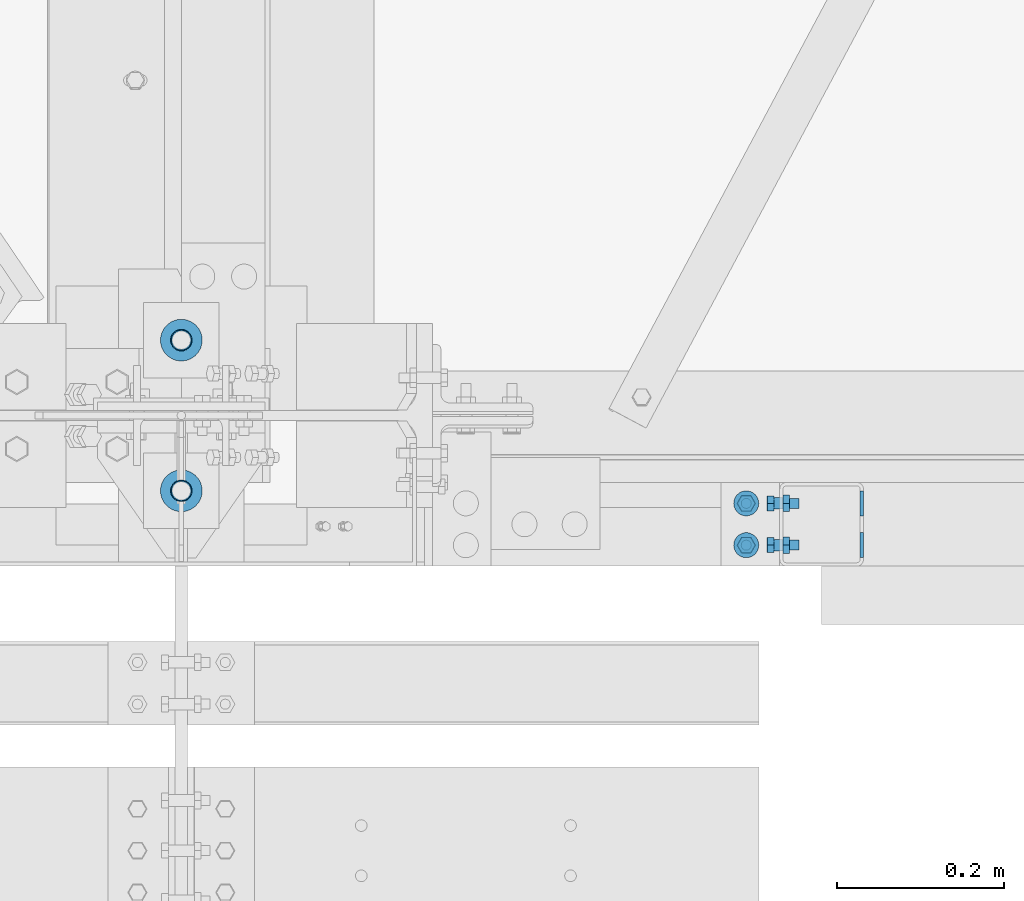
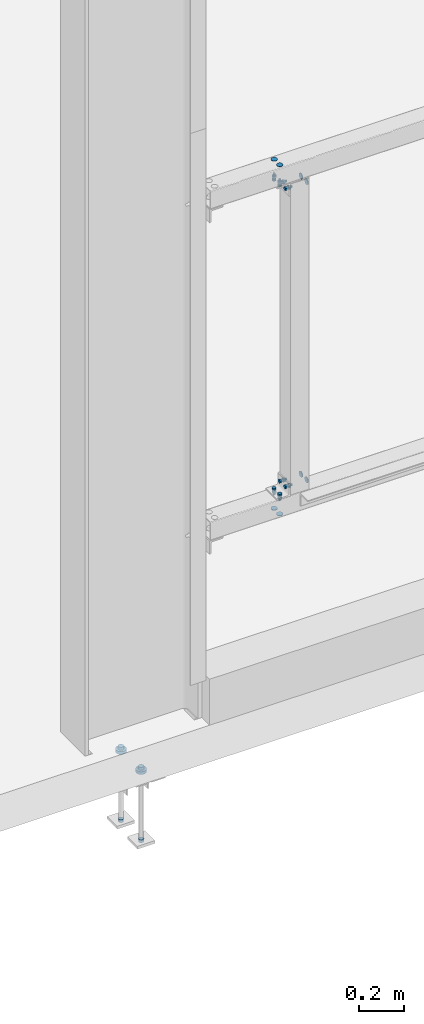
# One storey, part 272 of 362: 14 mechanical fasteners.
"""IFC2X3 building model written with IfcOpenShell, lengths in millimetres."""

from ifc_helpers import new_model, si_unit, frame, origin_with_axes, origin_2d_with_axis, place, context, subcontext, project, spatial, polyline, circle, outline, extrude, source, transform, mapped, material, type_object, element, save


model = new_model("IFC2X3")

# Units and contexts
model_context = context("Model", 3, precision=1e-05, world=origin_with_axes())
body_context = subcontext(model_context, "Body", "Model", "MODEL_VIEW")
ifc_project = project(units=[si_unit("LENGTHUNIT", "METRE", prefix="MILLI"), si_unit("AREAUNIT", "SQUARE_METRE"), si_unit("VOLUMEUNIT", "CUBIC_METRE"), si_unit("MASSUNIT", "GRAM", prefix="KILO"), si_unit("TIMEUNIT", "SECOND"), si_unit("PLANEANGLEUNIT", "RADIAN"), si_unit("SOLIDANGLEUNIT", "STERADIAN"), si_unit("THERMODYNAMICTEMPERATUREUNIT", "DEGREE_CELSIUS"), si_unit("LUMINOUSINTENSITYUNIT", "LUMEN")], contexts=[model_context])

# Site, building, storey
site_placement = place(None, origin_with_axes())
site = spatial("IfcSite", under=ifc_project, at=site_placement, Name="Undefined", CompositionType="ELEMENT")
building_placement = place(site_placement, origin_with_axes())
building = spatial("IfcBuilding", under=site, at=building_placement, Name="Undefined", CompositionType="ELEMENT")
storey_placement = place(building_placement, origin_with_axes())
storey = spatial("IfcBuildingStorey", under=building, at=storey_placement, Name="Undefined", CompositionType="ELEMENT", Elevation=0.0)

# Mechanical fasteners
ifc_material_1 = material(Name="6.8")
mechanical_fastener_type = type_object("IfcMechanicalFastenerType", Name="Bolt assembly")
shared_shape_1 = source(origin_with_axes(), body_context, "Body", "SweptSolid", [
    extrude(circle(Radius=15.0, at=origin_2d_with_axis()), frame((0.0, 0.0, 0.0), z_axis=(0.0, 1.0, 0.0), x_axis=(1.0, 0.0, 0.0)), (0.0, 0.0, 1.0), 4.1),
])
mechanical_fastener_1_placement = place(storey_placement, frame((29695.000000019, -130.000008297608, 1140.0), z_axis=(0.0, 1.0, 0.0), x_axis=(0.0, 0.0, -1.0)))
element("IfcMechanicalFastener", 1, at=mechanical_fastener_1_placement, inside=storey, type_object=mechanical_fastener_type, material=ifc_material_1, Name="Bolt assembly", NominalDiameter=30.0, NominalLength=4.0, context=body_context, shape_type="MappedRepresentation", body=[
    mapped(shared_shape_1, transform((0.0, 0.0, -25.0))),
    mapped(shared_shape_1, transform((0.0, 0.0, 25.0))),
])
mechanical_fastener_2_placement = place(storey_placement, frame((29695.000000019, -130.000008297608, 2760.0), z_axis=(0.0, -1.0, 0.0), x_axis=(0.0, 0.0, 1.0)))
element("IfcMechanicalFastener", 2, at=mechanical_fastener_2_placement, inside=storey, type_object=mechanical_fastener_type, material=ifc_material_1, Name="Bolt assembly", NominalDiameter=30.0, NominalLength=4.0, context=body_context, shape_type="MappedRepresentation", body=[
    mapped(shared_shape_1, transform((0.0, 0.0, 25.0))),
    mapped(shared_shape_1, transform((0.0, 0.0, -25.0))),
])
ifc_material_2 = material(Name="8.8-SB-ZINGUE")
shared_shape_2 = source(origin_with_axes(), body_context, "Body", "SweptSolid", [
    extrude(circle(Radius=7.0, at=origin_2d_with_axis()), frame((0.0, -0.101674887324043, 0.0), z_axis=(0.0, 1.0, 0.0), x_axis=(1.0, 0.0, 0.0)), (0.0, 0.0, 1.0), 4.1),
    extrude(circle(Radius=7.0, at=origin_2d_with_axis()), frame((0.0, -6.90167467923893, 0.0), z_axis=(0.0, 1.0, 0.0), x_axis=(1.0, 0.0, 0.0)), (0.0, 0.0, 1.0), 7.0),
    extrude(outline(polyline([(10.39230484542, 0.0), (5.19615242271, 9.00000000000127), (-5.19615242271, 9.00000000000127), (-10.39230484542, 0.0), (-5.19615242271, -9.00000000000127), (5.19615242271, -9.00000000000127), (10.39230484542, 0.0)])), frame((0.0, -14.9216746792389, 0.0), z_axis=(0.0, 1.0, 0.0), x_axis=(1.0, 0.0, 0.0)), (0.0, 0.0, 1.0), 7.92),
    extrude(circle(Radius=6.0, at=origin_2d_with_axis()), frame((0.0, -7.00167467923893, 0.0), z_axis=(0.0, 1.0, 0.0), x_axis=(1.0, 0.0, 0.0)), (0.0, 0.0, 1.0), 30.0),
    extrude(outline(polyline([(11.5008173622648, 0.0), (5.7504086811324, 9.96000000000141), (-5.7504086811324, 9.96000000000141), (-11.5008173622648, 0.0), (-5.7504086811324, -9.96000000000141), (5.7504086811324, -9.96000000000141), (11.5008173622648, 0.0)])), frame((0.0, 3.99832511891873, 0.0), z_axis=(0.0, 1.0, 0.0), x_axis=(1.0, 0.0, 0.0)), (0.0, 0.0, 1.0), 7.92),
])
mechanical_fastener_3_placement = place(storey_placement, frame((29595.0016749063, -130.000006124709, 1140.00000004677), z_axis=(0.0, -1.0, 0.0), x_axis=(5.58310000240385e-05, -3.00000033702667e-09, -0.99999999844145)))
element("IfcMechanicalFastener", 3, at=mechanical_fastener_3_placement, inside=storey, type_object=mechanical_fastener_type, material=ifc_material_2, Name="Bolt assembly", NominalDiameter=12.0, NominalLength=30.0, context=body_context, shape_type="MappedRepresentation", body=[
    mapped(shared_shape_2, transform((0.0, 0.0, -25.0))),
    mapped(shared_shape_2, transform((0.0, 0.0, 25.0))),
])
mechanical_fastener_4_placement = place(storey_placement, frame((29595.0016749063, -130.000006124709, 2759.99999995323), z_axis=(0.0, 1.0, 0.0), x_axis=(5.58310000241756e-05, -2.99999998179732e-09, 0.99999999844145)))
element("IfcMechanicalFastener", 4, at=mechanical_fastener_4_placement, inside=storey, type_object=mechanical_fastener_type, material=ifc_material_2, Name="Bolt assembly", NominalDiameter=12.0, NominalLength=30.0, context=body_context, shape_type="MappedRepresentation", body=[
    mapped(shared_shape_2, transform((0.0, 0.0, 25.0))),
    mapped(shared_shape_2, transform((0.0, 0.0, -25.0))),
])
shared_shape_3 = source(origin_with_axes(), body_context, "Body", "SweptSolid", [
    extrude(circle(Radius=15.0, at=origin_2d_with_axis()), frame((0.0, -3.99999923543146, 0.0), z_axis=(0.0, 1.0, 0.0), x_axis=(1.0, 0.0, 0.0)), (0.0, 0.0, 1.0), 4.1),
])
mechanical_fastener_5_placement = place(storey_placement, frame((29555.000000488, -130.000008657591, 1000.0), z_axis=(0.0, 1.0, 0.0), x_axis=(1.0, 0.0, 0.0)))
element("IfcMechanicalFastener", 5, at=mechanical_fastener_5_placement, inside=storey, type_object=mechanical_fastener_type, material=ifc_material_1, Name="Bolt assembly", NominalDiameter=30.0, NominalLength=4.0, context=body_context, shape_type="MappedRepresentation", body=[
    mapped(shared_shape_3, transform((0.0, 0.0, -25.0))),
    mapped(shared_shape_3, transform((0.0, 0.0, 25.0))),
])
mechanical_fastener_6_placement = place(storey_placement, frame((29555.000000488, -130.000008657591, 2900.0), z_axis=(0.0, -1.0, 0.0), x_axis=(1.0, 0.0, 0.0)))
element("IfcMechanicalFastener", 6, at=mechanical_fastener_6_placement, inside=storey, type_object=mechanical_fastener_type, material=ifc_material_1, Name="Bolt assembly", NominalDiameter=30.0, NominalLength=4.0, context=body_context, shape_type="MappedRepresentation", body=[
    mapped(shared_shape_3, transform((0.0, 0.0, 25.0))),
    mapped(shared_shape_3, transform((0.0, 0.0, -25.0))),
])
shared_shape_4 = source(origin_with_axes(), body_context, "Body", "SweptSolid", [
    extrude(circle(Radius=7.0, at=origin_2d_with_axis()), frame((0.0, -0.100011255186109, 0.0), z_axis=(0.0, 1.0, 0.0), x_axis=(1.0, 0.0, 0.0)), (0.0, 0.0, 1.0), 4.1),
    extrude(circle(Radius=7.0, at=origin_2d_with_axis()), frame((0.0, -6.9, 0.0), z_axis=(0.0, 1.0, 0.0), x_axis=(1.0, 0.0, 0.0)), (0.0, 0.0, 1.0), 7.0),
    extrude(outline(polyline([(10.39230484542, 0.0), (5.19615242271, 9.00000000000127), (-5.19615242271, 9.00000000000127), (-10.39230484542, 0.0), (-5.19615242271, -9.00000000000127), (5.19615242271, -9.00000000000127), (10.39230484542, 0.0)])), frame((0.0, -14.92, 0.0), z_axis=(0.0, 1.0, 0.0), x_axis=(1.0, 0.0, 0.0)), (0.0, 0.0, 1.0), 7.92),
    extrude(circle(Radius=6.0, at=origin_2d_with_axis()), frame((0.0, -7.0, 0.0), z_axis=(0.0, 1.0, 0.0), x_axis=(1.0, 0.0, 0.0)), (0.0, 0.0, 1.0), 30.0),
    extrude(outline(polyline([(11.5008173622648, 0.0), (5.7504086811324, 9.96000000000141), (-5.7504086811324, 9.96000000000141), (-11.5008173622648, 0.0), (-5.7504086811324, -9.96000000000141), (5.7504086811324, -9.96000000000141), (11.5008173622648, 0.0)])), frame((0.0, 4.00000005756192, 0.0), z_axis=(0.0, 1.0, 0.0), x_axis=(1.0, 0.0, 0.0)), (0.0, 0.0, 1.0), 7.92),
])
mechanical_fastener_7_placement = place(storey_placement, frame((29554.999999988, -130.000007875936, 1100.0), z_axis=(0.0, 1.0, 0.0), x_axis=(1.0, 0.0, 0.0)))
element("IfcMechanicalFastener", 7, at=mechanical_fastener_7_placement, inside=storey, type_object=mechanical_fastener_type, material=ifc_material_2, Name="Bolt assembly", NominalDiameter=12.0, NominalLength=30.0, context=body_context, shape_type="MappedRepresentation", body=[
    mapped(shared_shape_4, transform((0.0, 0.0, -25.0))),
    mapped(shared_shape_4, transform((0.0, 0.0, 25.0))),
])
mechanical_fastener_8_placement = place(storey_placement, frame((29554.999999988, -130.000007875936, 2800.0), z_axis=(0.0, -1.0, 0.0), x_axis=(1.0, 0.0, 0.0)))
element("IfcMechanicalFastener", 8, at=mechanical_fastener_8_placement, inside=storey, type_object=mechanical_fastener_type, material=ifc_material_2, Name="Bolt assembly", NominalDiameter=12.0, NominalLength=30.0, context=body_context, shape_type="MappedRepresentation", body=[
    mapped(shared_shape_4, transform((0.0, 0.0, 25.0))),
    mapped(shared_shape_4, transform((0.0, 0.0, -25.0))),
])
shared_shape_5 = source(origin_with_axes(), body_context, "Body", "SweptSolid", [
    extrude(circle(Radius=25.0, at=origin_2d_with_axis()), frame((0.0, -14.999999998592, 0.0), z_axis=(0.0, 1.0, 0.0), x_axis=(1.0, 0.0, 0.0)), (0.0, 0.0, 1.0), 15.1),
])
for number, where, z_axis, x_axis, name in (
    (9, (28879.9999999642, -90.0028495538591, -200.00000000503), (-1.0, 0.0, 0.0), (0.0, 1.0, 0.0), "Bolt assembly"),
    (10, (28879.9999999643, 89.9971504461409, -200.000000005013), (1.0, 0.0, 0.0), (0.0, -1.0, 0.0), "Bolt assembly"),
):
    element("IfcMechanicalFastener", number, at=place(storey_placement, frame(where, z_axis=z_axis, x_axis=x_axis)), inside=storey, type_object=mechanical_fastener_type, material=ifc_material_1, Name=name, NominalDiameter=30.0, NominalLength=15.0, context=body_context, shape_type="MappedRepresentation", body=[
        mapped(shared_shape_5, transform((0.0, 0.0, 0.0))),
    ])
shared_shape_6 = source(origin_with_axes(), body_context, "Body", "SweptSolid", [
    extrude(circle(Radius=13.0, at=origin_2d_with_axis()), frame((0.0, -14.999999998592, 0.0), z_axis=(0.0, 1.0, 0.0), x_axis=(1.0, 0.0, 0.0)), (0.0, 0.0, 1.0), 15.1),
])
for number, where, z_axis, x_axis, name in (
    (11, (28880.0, -90.0028495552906, -185.0), (1.0, 0.0, 0.0), (0.0, -1.0, 0.0), "Bolt assembly"),
    (12, (28880.0, 89.9971504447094, -185.0), (1.0, 0.0, 0.0), (0.0, -1.0, 0.0), "Bolt assembly"),
):
    element("IfcMechanicalFastener", number, at=place(storey_placement, frame(where, z_axis=z_axis, x_axis=x_axis)), inside=storey, type_object=mechanical_fastener_type, material=ifc_material_1, Name=name, NominalDiameter=24.0, NominalLength=15.0, context=body_context, shape_type="MappedRepresentation", body=[
        mapped(shared_shape_6, transform((0.0, 0.0, 0.0))),
    ])
shared_shape_7 = source(origin_with_axes(), body_context, "Body", "SweptSolid", [
    extrude(circle(Radius=12.0, at=origin_2d_with_axis()), frame((0.0, -14.999999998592, 0.0), z_axis=(0.0, 1.0, 0.0), x_axis=(1.0, 0.0, 0.0)), (0.0, 0.0, 1.0), 15.1),
])
for number, where, z_axis, x_axis, name in (
    (13, (28880.0, -90.0028495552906, -580.0), (1.0, 0.0, 0.0), (0.0, -1.0, 0.0), "Bolt assembly"),
    (14, (28880.0, 89.9971504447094, -580.0), (1.0, 0.0, 0.0), (0.0, -1.0, 0.0), "Bolt assembly"),
):
    element("IfcMechanicalFastener", number, at=place(storey_placement, frame(where, z_axis=z_axis, x_axis=x_axis)), inside=storey, type_object=mechanical_fastener_type, material=ifc_material_1, Name=name, NominalDiameter=22.0, NominalLength=15.0, context=body_context, shape_type="MappedRepresentation", body=[
        mapped(shared_shape_7, transform((0.0, 0.0, 0.0))),
    ])

save(model, "model.ifc")
